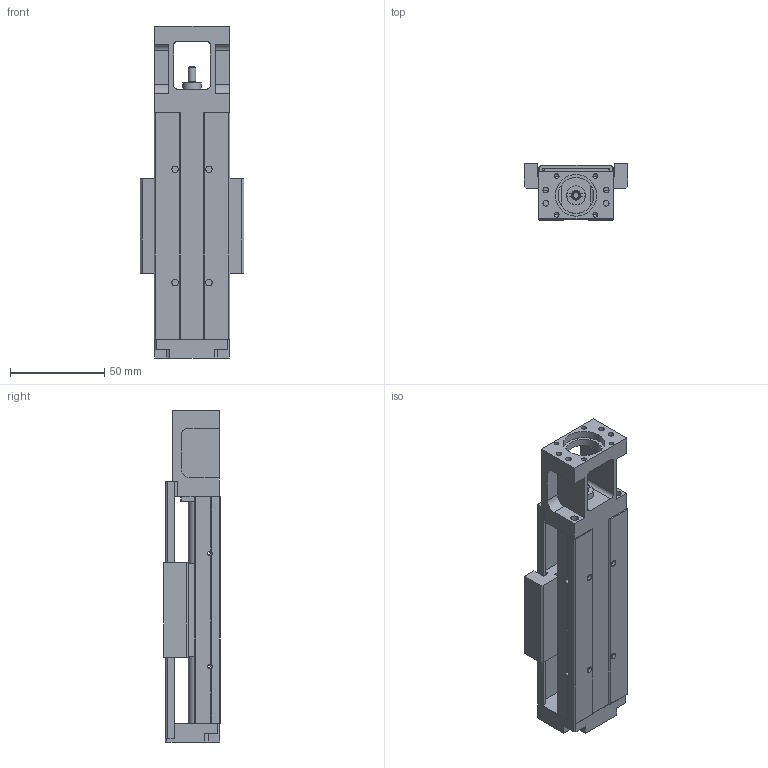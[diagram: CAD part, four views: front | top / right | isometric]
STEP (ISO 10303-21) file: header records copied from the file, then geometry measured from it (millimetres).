
FILE_DESCRIPTION (( 'STEP AP203' ), '1' );
FILE_NAME ('GSX40C-50-LL08025-P7.STEP', '2013-11-02T01:37:31', ( '微软用户' ), ( '微软中国' ), 'SwSTEP 2.0', 'SolidWorks 2010', '' );
FILE_SCHEMA (( 'CONFIG_CONTROL_DESIGN' ));
Length unit declared in the file: millimetre
Products named in the file (1): GSX40C-50-LL08025-P7
Bounding box: 55 x 30 x 176 mm (x, y, z)
Volume: 119151.8 mm3; surface area: 54298.5 mm2
Topology: 2 solids, 8 shells, 367 faces, 964 edges, 599 vertices
Faces by surface type: plane 165, cylinder 144, cone 58
Entity records: 11348 total; most frequent: CARTESIAN_POINT 2171, DIRECTION 1927, ORIENTED_EDGE 1848, EDGE_CURVE 924, AXIS2_PLACEMENT_3D 675, VERTEX_POINT 599, LINE 577, VECTOR 577
